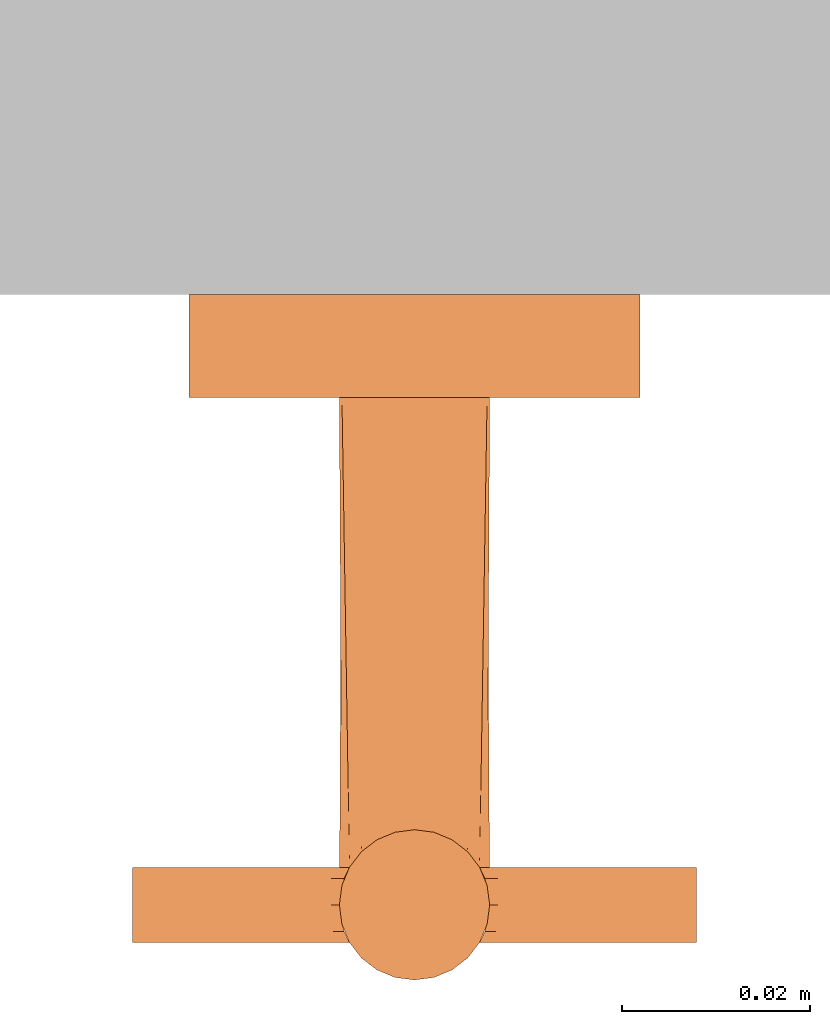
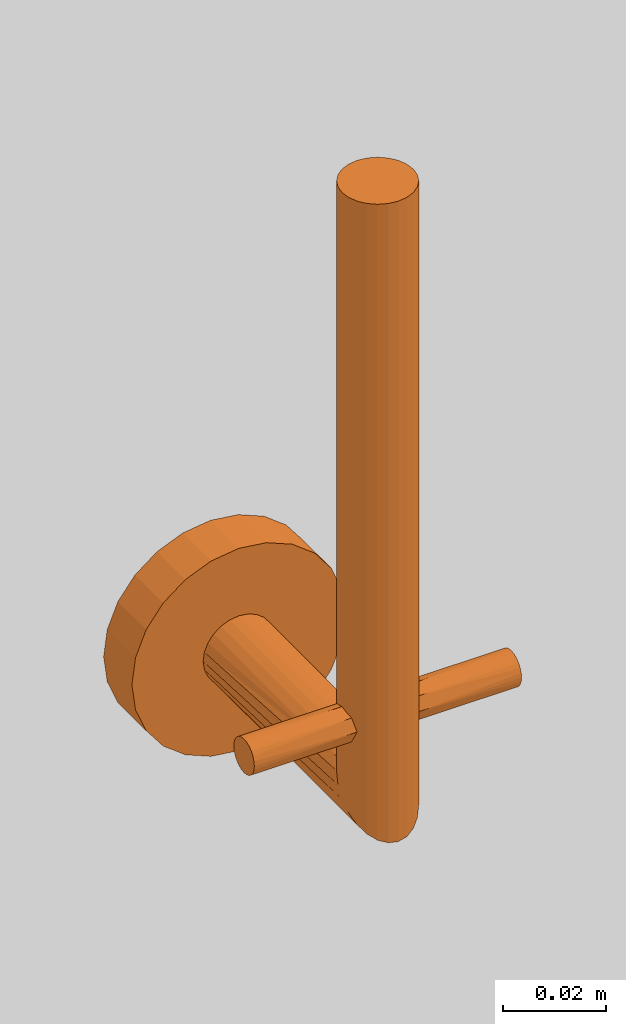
# One storey, part 3 of 3: 1 proxy.
"""IFC2X3 building model written with IfcOpenShell, lengths in millimetres."""

from ifc_helpers import new_model, entity, si_unit, converted_unit, derived_unit, direction, frame, origin, place, context, subcontext, project, spatial, faceted_brep, source, transform, mapped, material, type_object, type_shapes, element, save


model = new_model("IFC2X3")

# Units and contexts
model_context = context("Model", 3, precision=0.01, world=origin(), true_north=direction((6.12303176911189e-17, 1.0)))
body_context = subcontext(model_context, "Body", "Model", "MODEL_VIEW")
ifc_project = project(units=[si_unit("LENGTHUNIT", "METRE", prefix="MILLI"), si_unit("AREAUNIT", "SQUARE_METRE"), si_unit("VOLUMEUNIT", "CUBIC_METRE"), converted_unit("PLANEANGLEUNIT", "DEGREE", entity("IfcRatioMeasure", 0.0174532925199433), si_unit("PLANEANGLEUNIT", "RADIAN"), dimensions=[0, 0, 0, 0, 0, 0, 0]), si_unit("MASSUNIT", "GRAM", prefix="KILO"), derived_unit("MASSDENSITYUNIT", [(si_unit("MASSUNIT", "GRAM", prefix="KILO"), 1), (si_unit("LENGTHUNIT", "METRE"), -3)]), si_unit("TIMEUNIT", "SECOND"), si_unit("FREQUENCYUNIT", "HERTZ"), si_unit("THERMODYNAMICTEMPERATUREUNIT", "DEGREE_CELSIUS"), derived_unit("THERMALTRANSMITTANCEUNIT", [(si_unit("MASSUNIT", "GRAM", prefix="KILO"), 1), (si_unit("THERMODYNAMICTEMPERATUREUNIT", "KELVIN"), -1), (si_unit("TIMEUNIT", "SECOND"), -3)]), derived_unit("VOLUMETRICFLOWRATEUNIT", [(si_unit("LENGTHUNIT", "METRE"), 3), (si_unit("TIMEUNIT", "SECOND"), -1)]), si_unit("ELECTRICCURRENTUNIT", "AMPERE"), si_unit("ELECTRICVOLTAGEUNIT", "VOLT"), si_unit("POWERUNIT", "WATT"), si_unit("FORCEUNIT", "NEWTON", prefix="KILO"), si_unit("ILLUMINANCEUNIT", "LUX"), si_unit("LUMINOUSFLUXUNIT", "LUMEN"), si_unit("LUMINOUSINTENSITYUNIT", "CANDELA"), derived_unit("USERDEFINED", [(si_unit("MASSUNIT", "GRAM", prefix="KILO"), -1), (si_unit("LENGTHUNIT", "METRE"), -2), (si_unit("TIMEUNIT", "SECOND"), 3), (si_unit("LUMINOUSFLUXUNIT", "LUMEN"), 1)]), derived_unit("LINEARVELOCITYUNIT", [(si_unit("LENGTHUNIT", "METRE"), 1), (si_unit("TIMEUNIT", "SECOND"), -1)]), si_unit("PRESSUREUNIT", "PASCAL"), derived_unit("USERDEFINED", [(si_unit("LENGTHUNIT", "METRE"), -2), (si_unit("MASSUNIT", "GRAM", prefix="KILO"), 1), (si_unit("TIMEUNIT", "SECOND"), -2)])], contexts=[model_context])

# Site, building, storey
site_placement = place(None, origin())
site = spatial("IfcSite", under=ifc_project, at=site_placement, Name="Default", CompositionType="ELEMENT")
building_placement = place(site_placement, origin())
building = spatial("IfcBuilding", under=site, at=building_placement, CompositionType="ELEMENT")
storey_placement = place(building_placement, origin())
storey = spatial("IfcBuildingStorey", under=building, at=storey_placement, Name="Level 0", CompositionType="ELEMENT", Elevation=0.0)

# Proxy
ifc_material = material(Name="Duten_Metal_BrushedStainlessSteel")
building_element_proxy_type = type_object("IfcBuildingElementProxyType", Name="Brushed Stainless Steel", PredefinedType="USERDEFINED", material=ifc_material)
shared_shape = source(origin(), body_context, "Body", "Brep", [
    faceted_brep([(37.4826511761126, 62.1698177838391, 40.7686012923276), (36.9282032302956, 61.0, 43.5952722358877), (37.4826511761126, 62.1698177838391, 46.4219431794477), (38.0, 65.0, 47.5952722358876), (38.0, 65.0, 39.5952722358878), (60.0, 63.9647238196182, 47.4589755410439), (60.0, 63.0, 47.0593738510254), (60.0, 62.1715728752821, 46.4236993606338), (60.0, 61.5358983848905, 45.5952722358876), (60.0, 61.136296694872, 44.6305484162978), (60.0, 61.0, 43.5952722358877), (60.0, 61.136296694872, 42.5599960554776), (60.0, 61.5358983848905, 41.5952722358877), (60.0, 62.1715728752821, 40.7668451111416), (60.0, 63.0, 40.1311706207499), (60.0, 63.9647238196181, 39.7315689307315), (60.0, 65.0, 39.5952722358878), (60.0, 66.0352761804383, 39.7315689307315), (60.0, 67.0, 40.1311706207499), (60.0, 67.8284271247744, 40.7668451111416), (60.0, 68.4641016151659, 41.5952722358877), (60.0, 68.8637033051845, 42.5599960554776), (60.0, 69.0, 43.5952722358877), (60.0, 68.8637033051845, 44.6305484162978), (60.0, 68.4641016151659, 45.5952722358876), (60.0, 67.8284271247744, 46.4236993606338), (60.0, 67.0, 47.0593738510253), (60.0, 66.0352761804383, 47.4589755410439), (60.0, 65.0, 47.5952722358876), (36.9282032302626, 69.0, 43.5952722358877), (37.4826511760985, 67.8301822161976, 46.4219431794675), (37.4826511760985, 67.8301822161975, 40.7686012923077)], [[[0, 1, 2]], [[3, 4, 0, 2]], [[5, 6, 7, 8, 9, 10, 11, 12, 13, 14, 15, 16, 17, 18, 19, 20, 21, 22, 23, 24, 25, 26, 27, 28]], [[23, 29, 30]], [[3, 28, 27]], [[3, 26, 30]], [[27, 26, 3]], [[22, 29, 23]], [[30, 25, 24]], [[24, 23, 30]], [[25, 30, 26]], [[6, 3, 2]], [[2, 1, 9]], [[10, 9, 1]], [[5, 3, 6]], [[2, 8, 7]], [[7, 6, 2]], [[8, 2, 9]], [[3, 5, 28]], [[11, 1, 0]], [[4, 16, 15]], [[4, 14, 0]], [[15, 14, 4]], [[10, 1, 11]], [[12, 11, 0]], [[0, 13, 12]], [[0, 14, 13]], [[18, 4, 31]], [[31, 29, 21]], [[22, 21, 29]], [[18, 17, 4]], [[20, 19, 31]], [[21, 20, 31]], [[18, 31, 19]], [[4, 17, 16]], [[30, 31, 4, 3]], [[29, 31, 30]]]),
    faceted_brep([(23.0717967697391, 69.0, 43.5952722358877), (0.0, 69.0, 43.5952722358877), (0.0, 68.8637033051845, 44.6305484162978), (0.0, 68.464101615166, 45.5952722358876), (22.5173488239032, 67.8301822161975, 46.4219431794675), (0.0, 67.8284271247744, 46.4236993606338), (0.0, 67.0, 47.0593738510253), (0.0, 66.0352761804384, 47.4589755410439), (22.0, 65.0, 47.5952722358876), (0.0, 65.0, 47.5952722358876), (0.0, 63.9647238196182, 47.4589755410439), (0.0, 63.0, 47.0593738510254), (22.5173488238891, 62.1698177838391, 46.4219431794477), (0.0, 62.1715728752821, 46.4236993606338), (0.0, 61.5358983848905, 45.5952722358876), (0.0, 61.136296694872, 44.6305484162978), (0.0, 61.0, 43.5952722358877), (23.071796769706, 61.0, 43.5952722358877), (0.0, 61.136296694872, 42.5599960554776), (0.0, 61.5358983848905, 41.5952722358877), (22.5173488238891, 62.1698177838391, 40.7686012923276), (0.0, 62.171572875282, 40.7668451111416), (0.0, 63.0, 40.1311706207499), (0.0, 63.9647238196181, 39.7315689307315), (22.0, 65.0, 39.5952722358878), (0.0, 65.0, 39.5952722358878), (0.0, 66.0352761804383, 39.7315689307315), (0.0, 67.0, 40.1311706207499), (22.5173488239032, 67.8301822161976, 40.7686012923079), (0.0, 67.8284271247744, 40.7668451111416), (0.0, 68.4641016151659, 41.5952722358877), (0.0, 68.8637033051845, 42.5599960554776)], [[[0, 1, 2]], [[2, 3, 4]], [[5, 4, 3]], [[0, 2, 4]], [[6, 7, 8]], [[8, 7, 9]], [[6, 8, 4]], [[5, 6, 4]], [[10, 11, 8]], [[11, 12, 8]], [[13, 12, 11]], [[12, 14, 15]], [[14, 12, 13]], [[15, 16, 17]], [[15, 17, 12]], [[10, 8, 9]], [[17, 16, 18]], [[18, 19, 20]], [[21, 20, 19]], [[17, 18, 20]], [[22, 23, 24]], [[24, 23, 25]], [[22, 24, 20]], [[21, 22, 20]], [[26, 27, 24]], [[27, 28, 24]], [[29, 28, 27]], [[28, 30, 31]], [[30, 28, 29]], [[31, 1, 0]], [[31, 0, 28]], [[26, 24, 25]], [[28, 0, 4]], [[8, 24, 28, 4]], [[23, 22, 21, 19, 18, 16, 15, 14, 13, 11, 10, 9, 7, 6, 5, 3, 2, 1, 31, 30, 29, 27, 26, 25]], [[12, 20, 24, 8]], [[17, 20, 12]]]),
    faceted_brep([(22.0, 11.0, 25.5952722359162), (22.272593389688, 11.0, 23.524719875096), (23.0717967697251, 11.0, 21.5952722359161), (24.3431457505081, 11.0, 19.9384179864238), (26.0, 11.0, 18.6670690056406), (27.9294476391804, 11.0, 17.8678656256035), (30.0, 11.0, 17.5952722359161), (32.0705523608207, 11.0, 17.8678656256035), (34.0, 11.0, 18.6670690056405), (35.656854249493, 11.0, 19.9384179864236), (36.9282032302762, 11.0, 21.595272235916), (37.7274066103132, 11.0, 23.5247198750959), (38.0, 11.0, 25.5952722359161), (37.7274066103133, 11.0, 27.6658245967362), (36.9282032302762, 11.0, 29.5952722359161), (35.6568542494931, 11.0, 31.2521264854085), (34.0, 11.0, 32.5234754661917), (32.0705523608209, 11.0, 33.3226788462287), (30.0, 11.0, 33.5952722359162), (27.9294476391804, 11.0, 33.3226788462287), (26.0, 11.0, 32.5234754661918), (24.3431457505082, 11.0, 31.2521264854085), (23.0717967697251, 11.0, 29.5952722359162), (22.272593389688, 11.0, 27.6658245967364), (30.0, 73.0, 17.5952722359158), (32.0705523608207, 72.7274066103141, 17.8678656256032), (34.0, 71.9282032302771, 18.6670690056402), (35.656854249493, 70.656854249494, 19.9384179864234), (36.9282032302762, 69.0, 21.5952722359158), (37.7274066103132, 67.0705523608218, 23.5247198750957), (38.0, 65.0, 25.5952722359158), (37.7274066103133, 62.9294476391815, 27.665824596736), (36.9282032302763, 61.0, 29.5952722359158), (35.6568542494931, 59.3431457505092, 31.2521264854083), (32.0705523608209, 57.272593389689, 33.3226788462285), (30.0, 57.0, 33.595272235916), (34.0, 58.071796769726, 32.5234754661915), (26.0, 58.0717967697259, 32.5234754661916), (24.3431457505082, 59.3431457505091, 31.2521264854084), (27.9294476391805, 57.2725933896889, 33.3226788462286), (23.071796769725, 61.0, 29.595272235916), (22.272593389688, 62.9294476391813, 27.665824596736), (22.0, 65.0, 25.5952722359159), (23.071796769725, 69.0, 21.5952722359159), (22.272593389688, 67.0705523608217, 23.5247198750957), (24.3431457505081, 70.6568542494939, 19.9384179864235), (26.0, 71.9282032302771, 18.6670690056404), (27.9294476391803, 72.7274066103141, 17.8678656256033), (22.0, 65.0, 169.595272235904), (22.2725933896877, 62.9294476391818, 169.595272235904), (23.0717967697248, 61.0, 169.595272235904), (24.3431457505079, 59.3431457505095, 169.595272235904), (26.0, 58.0717967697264, 169.595272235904), (27.9294476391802, 57.2725933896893, 169.595272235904), (30.0, 57.0, 169.595272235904), (32.0705523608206, 57.2725933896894, 169.595272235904), (34.0, 58.0717967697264, 169.595272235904), (35.6568542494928, 59.3431457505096, 169.595272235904), (36.9282032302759, 61.0, 169.595272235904), (37.727406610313, 62.9294476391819, 169.595272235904), (38.0, 65.0, 169.595272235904), (37.727406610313, 67.0705523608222, 169.595272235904), (36.9282032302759, 69.0, 169.595272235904), (35.6568542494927, 70.6568542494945, 169.595272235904), (34.0, 71.9282032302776, 169.595272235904), (32.0705523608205, 72.7274066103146, 169.595272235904), (30.0, 73.0, 169.595272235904), (27.92944763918, 72.7274066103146, 169.595272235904), (26.0, 71.9282032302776, 169.595272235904), (24.3431457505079, 70.6568542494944, 169.595272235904), (23.0717967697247, 69.0, 169.595272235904), (22.2725933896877, 67.0705523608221, 169.595272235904)], [[[0, 1, 2, 3, 4, 5, 6, 7, 8, 9, 10, 11, 12, 13, 14, 15, 16, 17, 18, 19, 20, 21, 22, 23]], [[6, 24, 25, 7]], [[26, 7, 25]], [[8, 27, 28]], [[26, 27, 7]], [[9, 28, 29]], [[27, 8, 7]], [[11, 30, 31]], [[30, 11, 10]], [[9, 29, 10]], [[9, 8, 28]], [[29, 30, 10]], [[32, 33, 13]], [[31, 32, 12]], [[34, 35, 18, 17]], [[36, 34, 17, 16]], [[33, 36, 16, 15]], [[33, 14, 13]], [[13, 12, 32]], [[15, 14, 33]], [[31, 12, 11]], [[37, 38, 21, 20]], [[39, 37, 20, 19]], [[0, 40, 41]], [[23, 40, 0]], [[38, 40, 23]], [[35, 39, 19, 18]], [[22, 21, 38]], [[38, 23, 22]], [[41, 42, 1]], [[43, 3, 44]], [[45, 4, 43]], [[5, 46, 47]], [[45, 46, 5]], [[6, 5, 47, 24]], [[2, 1, 42]], [[0, 41, 1]], [[5, 4, 45]], [[3, 43, 4]], [[3, 2, 44]], [[42, 44, 2]], [[48, 49, 50, 51, 52, 53, 54, 55, 56, 57, 58, 59, 60, 61, 62, 63, 64, 65, 66, 67, 68, 69, 70, 71]], [[65, 64, 26, 25]], [[66, 65, 25, 24]], [[62, 61, 29, 28]], [[63, 62, 28, 27]], [[64, 63, 27, 26]], [[61, 60, 30, 29]], [[58, 57, 33, 32]], [[59, 58, 32, 31]], [[55, 54, 35, 34]], [[56, 55, 34, 36]], [[57, 56, 36, 33]], [[59, 31, 30, 60]], [[53, 52, 37, 39]], [[54, 53, 39, 35]], [[50, 49, 41, 40]], [[51, 50, 40, 38]], [[52, 51, 38, 37]], [[48, 42, 41, 49]], [[70, 69, 45, 43]], [[71, 70, 43, 44]], [[46, 68, 67, 47]], [[69, 68, 46, 45]], [[66, 24, 47, 67]], [[44, 42, 48, 71]]]),
    faceted_brep([(18.0, 0.0, 46.3798819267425), (13.0294372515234, 0.0, 42.5658349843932), (9.21539030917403, 0.0, 37.5952722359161), (6.81778016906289, 0.0, 31.8069293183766), (6.0, 0.0, 25.595272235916), (6.81778016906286, 0.0, 19.3836151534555), (9.21539030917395, 0.0, 13.595272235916), (13.0294372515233, 0.0, 8.62470948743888), (18.0, 0.0, 4.81066254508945), (23.78834291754, 0.0, 2.4130524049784), (30.0, 0.0, 1.59527223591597), (36.211657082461, 0.0, 2.41305240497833), (42.0, 0.0, 4.81066254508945), (46.9705627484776, 0.0, 8.62470948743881), (50.784609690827, 0.0, 13.5952722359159), (53.1822198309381, 0.0, 19.3836151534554), (54.0, 0.0, 25.5952722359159), (53.1822198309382, 0.0, 31.8069293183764), (50.7846096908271, 0.0, 37.595272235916), (46.9705627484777, 0.0, 42.565834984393), (42.0, 0.0, 46.3798819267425), (36.2116570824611, 0.0, 48.7774920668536), (30.0, 0.0, 49.5952722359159), (23.7883429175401, 0.0, 48.7774920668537), (23.78834291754, 11.0, 2.4130524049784), (18.0, 11.0, 4.81066254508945), (13.0294372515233, 11.0, 8.62470948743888), (9.21539030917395, 11.0, 13.595272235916), (6.81778016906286, 11.0, 19.3836151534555), (6.0, 11.0, 25.5952722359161), (6.81778016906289, 11.0, 31.8069293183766), (9.21539030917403, 11.0, 37.5952722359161), (13.0294372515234, 11.0, 42.5658349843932), (18.0, 11.0, 46.3798819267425), (23.7883429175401, 11.0, 48.7774920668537), (30.0, 11.0, 49.5952722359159), (36.2116570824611, 11.0, 48.7774920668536), (42.0, 11.0, 46.3798819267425), (46.9705627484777, 11.0, 42.565834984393), (50.7846096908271, 11.0, 37.595272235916), (53.1822198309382, 11.0, 31.8069293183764), (54.0, 11.0, 25.5952722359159), (53.1822198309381, 11.0, 19.3836151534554), (50.784609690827, 11.0, 13.5952722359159), (46.9705627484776, 11.0, 8.62470948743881), (42.0, 11.0, 4.81066254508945), (36.211657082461, 11.0, 2.41305240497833), (30.0, 11.0, 1.59527223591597)], [[[0, 1, 2, 3, 4, 5, 6, 7, 8, 9, 10, 11, 12, 13, 14, 15, 16, 17, 18, 19, 20, 21, 22, 23]], [[24, 25, 26, 27, 28, 29, 30, 31, 32, 33, 34, 35, 36, 37, 38, 39, 40, 41, 42, 43, 44, 45, 46, 47]], [[40, 17, 16, 41]], [[39, 18, 17, 40]], [[20, 19, 38, 37]], [[39, 38, 19, 18]], [[21, 20, 37, 36]], [[22, 21, 36, 35]], [[34, 23, 22, 35]], [[33, 0, 23, 34]], [[2, 1, 32, 31]], [[33, 32, 1, 0]], [[3, 2, 31, 30]], [[4, 3, 30, 29]], [[28, 5, 4, 29]], [[27, 6, 5, 28]], [[8, 7, 26, 25]], [[27, 26, 7, 6]], [[9, 8, 25, 24]], [[10, 9, 24, 47]], [[46, 11, 10, 47]], [[45, 12, 11, 46]], [[14, 13, 44, 43]], [[45, 44, 13, 12]], [[15, 14, 43, 42]], [[16, 15, 42, 41]]]),
])
type_shapes(building_element_proxy_type, [shared_shape])
proxy_placement = place(storey_placement, frame((-4832.06711548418, 781.719275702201, 574.404727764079), z_axis=(0.0, 0.0, 1.0), x_axis=(-1.0, 0.0, 0.0)))
element("IfcBuildingElementProxy", 1, at=proxy_placement, inside=storey, type_object=building_element_proxy_type, material=ifc_material, Name="Duten_PprRllDpnsrs_H107:Brushed Stainless Steel", ObjectType="Brushed Stainless Steel", context=body_context, shape_type="MappedRepresentation", body=[
    mapped(shared_shape, transform((0.0, 0.0, 0.0), scale=1.0)),
])

save(model, "model.ifc")
